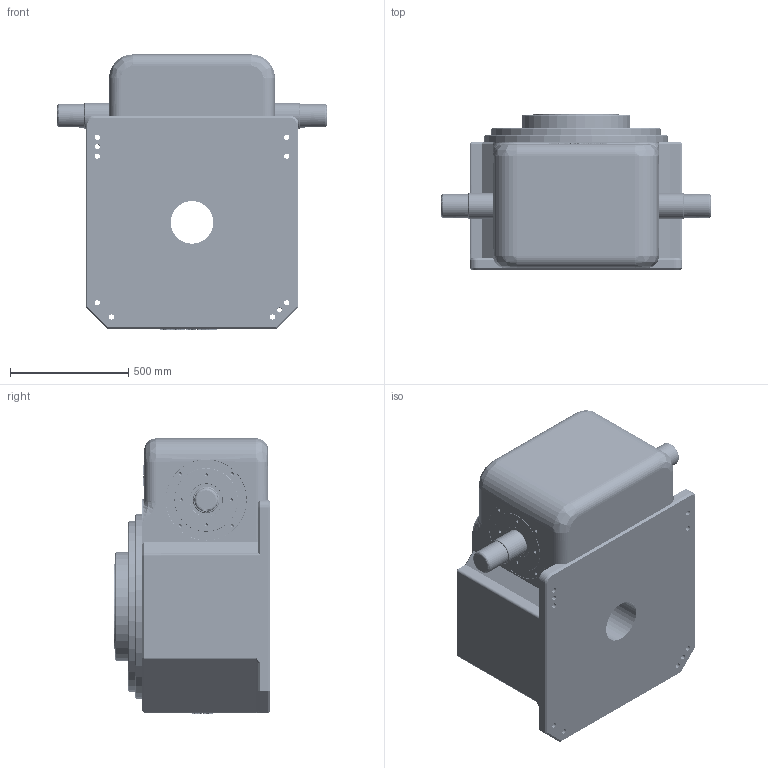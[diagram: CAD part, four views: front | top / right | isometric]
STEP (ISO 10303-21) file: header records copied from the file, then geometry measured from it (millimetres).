
FILE_DESCRIPTION (( 'STEP AP214' ), '1' );
FILE_NAME ('ER-RU450DT英锐凸轮分割器3D固定盘壳体和法兰面加销孔标准图纸(电话15062628977)AA.STEP', '2022-10-27T02:28:18', ( '微软用户' ), ( '微软中国' ), 'SwSTEP 2.0', 'SolidWorks 2017', '' );
FILE_SCHEMA (( 'AUTOMOTIVE_DESIGN' ));
Length unit declared in the file: millimetre
Products named in the file (1): ER-RU450DT英锐凸轮分割器3D固定盘壳体和法兰面加销孔标准图纸(电话15062628977)AA
Bounding box: 1140 x 660 x 1163 mm (x, y, z)
Volume: 504363351.2 mm3; surface area: 4705077.3 mm2
Topology: 1 solids, 1 shells, 2941 faces, 8153 edges, 5282 vertices
Faces by surface type: plane 1198, cylinder 1100, bspline 410, cone 233
Entity records: 176610 total; most frequent: CARTESIAN_POINT 109962, ORIENTED_EDGE 16134, DIRECTION 10814, EDGE_CURVE 8067, VERTEX_POINT 5282, LINE 4776, VECTOR 4776, EDGE_LOOP 3117
